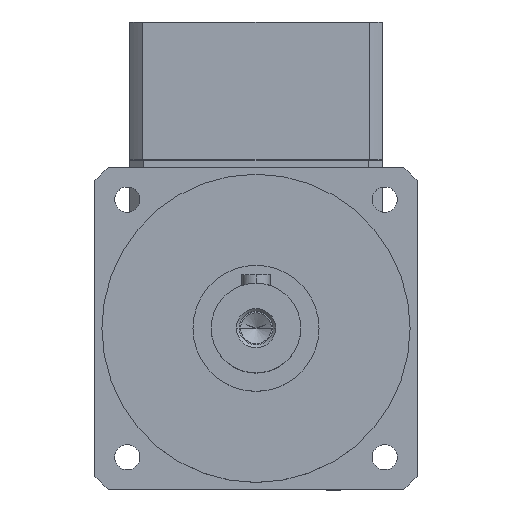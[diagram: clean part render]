
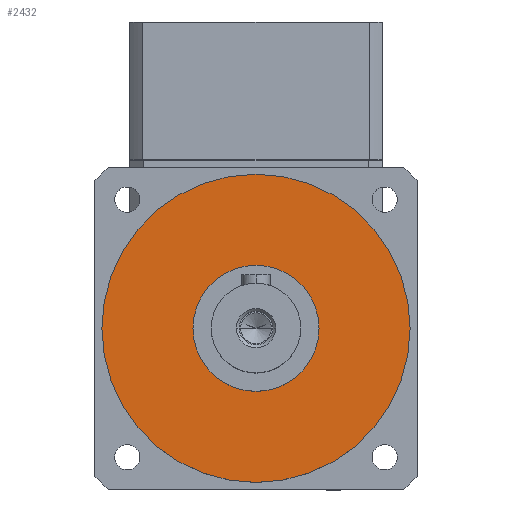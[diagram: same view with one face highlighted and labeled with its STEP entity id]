
A CAD part, top view. The second image highlights one B-rep face of the part: STEP entity #2432.
In plain terms, the highlighted planar face has unit normal (0, 0, 1).
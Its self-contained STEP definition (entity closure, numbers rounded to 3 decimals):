
#339 = CARTESIAN_POINT ( 'NONE',  ( 22.5, 0., 12. ) ) ;
#387 = EDGE_LOOP ( 'NONE', ( #4296, #3158 ) ) ;
#422 = CARTESIAN_POINT ( 'NONE',  ( 55., 0., 12. ) ) ;
#465 = DIRECTION ( 'NONE',  ( 0., 0., -1. ) ) ;
#678 = VERTEX_POINT ( 'NONE', #339 ) ;
#709 = CIRCLE ( 'NONE', #4877, 22.5 ) ;
#783 = CARTESIAN_POINT ( 'NONE',  ( 0., 0., 12. ) ) ;
#1062 = ORIENTED_EDGE ( 'NONE', *, *, #4178, .F. ) ;
#1161 = DIRECTION ( 'NONE',  ( -1., 0., 0. ) ) ;
#1182 = PLANE ( 'NONE',  #3227 ) ;
#1310 = CARTESIAN_POINT ( 'NONE',  ( 0., 0., 12. ) ) ;
#1539 = FACE_BOUND ( 'NONE', #387, .T. ) ;
#1641 = CARTESIAN_POINT ( 'NONE',  ( 0., 0., 12. ) ) ;
#1663 = AXIS2_PLACEMENT_3D ( 'NONE', #1641, #4269, #2019 ) ;
#1683 = DIRECTION ( 'NONE',  ( -1., 0., 0. ) ) ;
#1726 = CIRCLE ( 'NONE', #4869, 55. ) ;
#2019 = DIRECTION ( 'NONE',  ( -1., 0., 0. ) ) ;
#2278 = ORIENTED_EDGE ( 'NONE', *, *, #3162, .F. ) ;
#2296 = DIRECTION ( 'NONE',  ( -1., 0., 0. ) ) ;
#2432 = ADVANCED_FACE ( 'NONE', ( #1539, #4547 ), #1182, .F. ) ;
#2703 = CARTESIAN_POINT ( 'NONE',  ( 0., 0., 12. ) ) ;
#2826 = VERTEX_POINT ( 'NONE', #2860 ) ;
#2860 = CARTESIAN_POINT ( 'NONE',  ( -22.5, 0., 12. ) ) ;
#2984 = CIRCLE ( 'NONE', #1663, 22.5 ) ;
#3073 = DIRECTION ( 'NONE',  ( -1., 0., 0. ) ) ;
#3090 = EDGE_CURVE ( 'NONE', #678, #2826, #709, .T. ) ;
#3126 = VERTEX_POINT ( 'NONE', #422 ) ;
#3158 = ORIENTED_EDGE ( 'NONE', *, *, #3090, .T. ) ;
#3162 = EDGE_CURVE ( 'NONE', #3126, #4439, #3341, .T. ) ;
#3227 = AXIS2_PLACEMENT_3D ( 'NONE', #3786, #4578, #2296 ) ;
#3268 = EDGE_CURVE ( 'NONE', #2826, #678, #2984, .T. ) ;
#3341 = CIRCLE ( 'NONE', #4539, 55. ) ;
#3397 = DIRECTION ( 'NONE',  ( 0., 0., -1. ) ) ;
#3400 = EDGE_LOOP ( 'NONE', ( #1062, #2278 ) ) ;
#3786 = CARTESIAN_POINT ( 'NONE',  ( 0., 0., 12. ) ) ;
#3924 = DIRECTION ( 'NONE',  ( 0., 0., -1. ) ) ;
#4178 = EDGE_CURVE ( 'NONE', #4439, #3126, #1726, .T. ) ;
#4269 = DIRECTION ( 'NONE',  ( 0., 0., -1. ) ) ;
#4296 = ORIENTED_EDGE ( 'NONE', *, *, #3268, .T. ) ;
#4439 = VERTEX_POINT ( 'NONE', #4463 ) ;
#4463 = CARTESIAN_POINT ( 'NONE',  ( -55., 0., 12. ) ) ;
#4539 = AXIS2_PLACEMENT_3D ( 'NONE', #2703, #465, #3073 ) ;
#4547 = FACE_OUTER_BOUND ( 'NONE', #3400, .T. ) ;
#4578 = DIRECTION ( 'NONE',  ( 0., 0., -1. ) ) ;
#4869 = AXIS2_PLACEMENT_3D ( 'NONE', #1310, #3924, #1683 ) ;
#4877 = AXIS2_PLACEMENT_3D ( 'NONE', #783, #3397, #1161 ) ;
